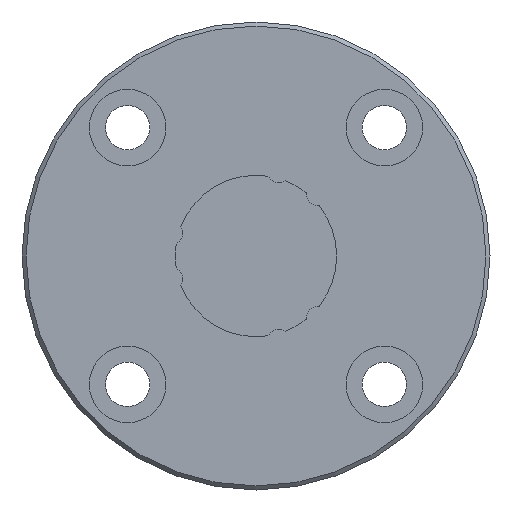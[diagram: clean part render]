
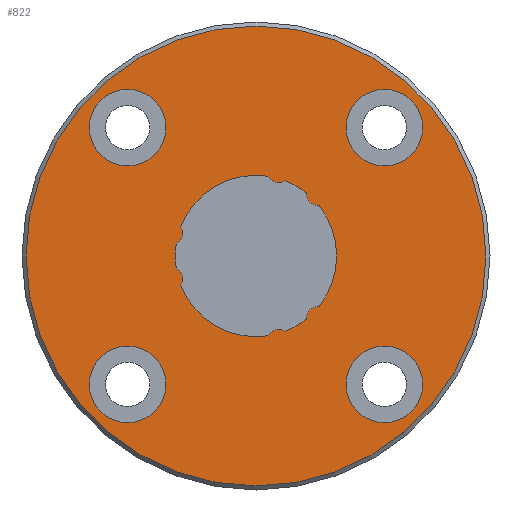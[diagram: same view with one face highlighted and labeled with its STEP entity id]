
A CAD part, left-side view. The second image highlights one B-rep face of the part: STEP entity #822.
In plain terms, the highlighted planar face has unit normal (-1, 0, 0).
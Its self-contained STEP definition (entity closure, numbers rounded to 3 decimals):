
#44=PLANE('',#927);
#175=ORIENTED_EDGE('',*,*,#351,.F.);
#176=ORIENTED_EDGE('',*,*,#352,.F.);
#177=ORIENTED_EDGE('',*,*,#353,.F.);
#178=ORIENTED_EDGE('',*,*,#354,.F.);
#179=ORIENTED_EDGE('',*,*,#355,.F.);
#180=ORIENTED_EDGE('',*,*,#356,.T.);
#181=ORIENTED_EDGE('',*,*,#357,.F.);
#182=ORIENTED_EDGE('',*,*,#358,.T.);
#183=ORIENTED_EDGE('',*,*,#359,.F.);
#184=ORIENTED_EDGE('',*,*,#360,.T.);
#185=ORIENTED_EDGE('',*,*,#361,.F.);
#186=ORIENTED_EDGE('',*,*,#362,.T.);
#187=ORIENTED_EDGE('',*,*,#363,.F.);
#188=ORIENTED_EDGE('',*,*,#364,.T.);
#189=ORIENTED_EDGE('',*,*,#365,.F.);
#190=ORIENTED_EDGE('',*,*,#366,.T.);
#191=ORIENTED_EDGE('',*,*,#367,.F.);
#351=EDGE_CURVE('',#445,#445,#523,.T.);
#352=EDGE_CURVE('',#446,#446,#524,.F.);
#353=EDGE_CURVE('',#447,#447,#525,.F.);
#354=EDGE_CURVE('',#448,#448,#526,.F.);
#355=EDGE_CURVE('',#449,#449,#527,.F.);
#356=EDGE_CURVE('',#450,#451,#528,.T.);
#357=EDGE_CURVE('',#452,#451,#529,.T.);
#358=EDGE_CURVE('',#452,#453,#530,.T.);
#359=EDGE_CURVE('',#454,#453,#531,.T.);
#360=EDGE_CURVE('',#454,#455,#532,.T.);
#361=EDGE_CURVE('',#456,#455,#533,.T.);
#362=EDGE_CURVE('',#456,#457,#534,.T.);
#363=EDGE_CURVE('',#458,#457,#535,.T.);
#364=EDGE_CURVE('',#458,#459,#536,.T.);
#365=EDGE_CURVE('',#460,#459,#537,.T.);
#366=EDGE_CURVE('',#460,#461,#538,.T.);
#367=EDGE_CURVE('',#450,#461,#539,.T.);
#445=VERTEX_POINT('',#1436);
#446=VERTEX_POINT('',#1438);
#447=VERTEX_POINT('',#1440);
#448=VERTEX_POINT('',#1442);
#449=VERTEX_POINT('',#1444);
#450=VERTEX_POINT('',#1446);
#451=VERTEX_POINT('',#1447);
#452=VERTEX_POINT('',#1449);
#453=VERTEX_POINT('',#1451);
#454=VERTEX_POINT('',#1453);
#455=VERTEX_POINT('',#1455);
#456=VERTEX_POINT('',#1457);
#457=VERTEX_POINT('',#1459);
#458=VERTEX_POINT('',#1461);
#459=VERTEX_POINT('',#1463);
#460=VERTEX_POINT('',#1465);
#461=VERTEX_POINT('',#1467);
#523=CIRCLE('',#928,28.5);
#524=CIRCLE('',#929,4.75);
#525=CIRCLE('',#930,4.75);
#526=CIRCLE('',#931,4.75);
#527=CIRCLE('',#932,4.75);
#528=CIRCLE('',#933,10.);
#529=CIRCLE('',#934,1.588);
#530=CIRCLE('',#935,10.);
#531=CIRCLE('',#936,1.588);
#532=CIRCLE('',#937,10.);
#533=CIRCLE('',#938,1.588);
#534=CIRCLE('',#939,10.);
#535=CIRCLE('',#940,1.588);
#536=CIRCLE('',#941,10.);
#537=CIRCLE('',#942,1.588);
#538=CIRCLE('',#943,10.);
#539=CIRCLE('',#944,1.588);
#593=EDGE_LOOP('',(#175));
#594=EDGE_LOOP('',(#176));
#595=EDGE_LOOP('',(#177));
#596=EDGE_LOOP('',(#178));
#597=EDGE_LOOP('',(#179));
#598=EDGE_LOOP('',(#180,#181,#182,#183,#184,#185,#186,#187,#188,#189,#190,
#191));
#689=FACE_BOUND('',#593,.T.);
#690=FACE_BOUND('',#594,.T.);
#691=FACE_BOUND('',#595,.T.);
#692=FACE_BOUND('',#596,.T.);
#693=FACE_BOUND('',#597,.T.);
#694=FACE_BOUND('',#598,.T.);
#822=ADVANCED_FACE('',(#689,#690,#691,#692,#693,#694),#44,.F.);
#927=AXIS2_PLACEMENT_3D('',#1434,#1114,#1115);
#928=AXIS2_PLACEMENT_3D('',#1435,#1116,#1117);
#929=AXIS2_PLACEMENT_3D('',#1437,#1118,#1119);
#930=AXIS2_PLACEMENT_3D('',#1439,#1120,#1121);
#931=AXIS2_PLACEMENT_3D('',#1441,#1122,#1123);
#932=AXIS2_PLACEMENT_3D('',#1443,#1124,#1125);
#933=AXIS2_PLACEMENT_3D('',#1445,#1126,#1127);
#934=AXIS2_PLACEMENT_3D('',#1448,#1128,#1129);
#935=AXIS2_PLACEMENT_3D('',#1450,#1130,#1131);
#936=AXIS2_PLACEMENT_3D('',#1452,#1132,#1133);
#937=AXIS2_PLACEMENT_3D('',#1454,#1134,#1135);
#938=AXIS2_PLACEMENT_3D('',#1456,#1136,#1137);
#939=AXIS2_PLACEMENT_3D('',#1458,#1138,#1139);
#940=AXIS2_PLACEMENT_3D('',#1460,#1140,#1141);
#941=AXIS2_PLACEMENT_3D('',#1462,#1142,#1143);
#942=AXIS2_PLACEMENT_3D('',#1464,#1144,#1145);
#943=AXIS2_PLACEMENT_3D('',#1466,#1146,#1147);
#944=AXIS2_PLACEMENT_3D('',#1468,#1148,#1149);
#1114=DIRECTION('',(1.,0.,0.));
#1115=DIRECTION('',(0.,0.,-1.));
#1116=DIRECTION('',(1.,0.,0.));
#1117=DIRECTION('',(0.,0.,-1.));
#1118=DIRECTION('',(1.,0.,0.));
#1119=DIRECTION('',(0.,0.,-1.));
#1120=DIRECTION('',(1.,0.,0.));
#1121=DIRECTION('',(0.,0.,-1.));
#1122=DIRECTION('',(1.,0.,0.));
#1123=DIRECTION('',(0.,0.,-1.));
#1124=DIRECTION('',(1.,0.,0.));
#1125=DIRECTION('',(0.,0.,-1.));
#1126=DIRECTION('',(1.,0.,0.));
#1127=DIRECTION('',(0.,0.,-1.));
#1128=DIRECTION('',(1.,0.,0.));
#1129=DIRECTION('',(0.,0.,-1.));
#1130=DIRECTION('',(1.,0.,0.));
#1131=DIRECTION('',(0.,0.,-1.));
#1132=DIRECTION('',(1.,0.,0.));
#1133=DIRECTION('',(0.,0.,-1.));
#1134=DIRECTION('',(1.,0.,0.));
#1135=DIRECTION('',(0.,0.,-1.));
#1136=DIRECTION('',(1.,0.,0.));
#1137=DIRECTION('',(0.,0.,-1.));
#1138=DIRECTION('',(1.,0.,0.));
#1139=DIRECTION('',(0.,0.,-1.));
#1140=DIRECTION('',(1.,0.,0.));
#1141=DIRECTION('',(0.,0.,-1.));
#1142=DIRECTION('',(1.,0.,0.));
#1143=DIRECTION('',(0.,0.,-1.));
#1144=DIRECTION('',(1.,0.,0.));
#1145=DIRECTION('',(0.,0.,-1.));
#1146=DIRECTION('',(1.,0.,0.));
#1147=DIRECTION('',(0.,0.,-1.));
#1148=DIRECTION('',(1.,0.,0.));
#1149=DIRECTION('',(0.,0.,-1.));
#1434=CARTESIAN_POINT('',(0.,0.,0.));
#1435=CARTESIAN_POINT('',(0.,0.,0.));
#1436=CARTESIAN_POINT('',(0.,0.,-28.5));
#1437=CARTESIAN_POINT('',(0.,-15.91,15.91));
#1438=CARTESIAN_POINT('',(0.,-15.91,11.16));
#1439=CARTESIAN_POINT('',(0.,-15.91,-15.91));
#1440=CARTESIAN_POINT('',(0.,-15.91,-20.66));
#1441=CARTESIAN_POINT('',(0.,15.91,-15.91));
#1442=CARTESIAN_POINT('',(0.,15.91,-20.66));
#1443=CARTESIAN_POINT('',(0.,15.91,15.91));
#1444=CARTESIAN_POINT('',(0.,15.91,11.16));
#1445=CARTESIAN_POINT('',(0.,0.,0.));
#1446=CARTESIAN_POINT('',(0.,9.89,-1.479));
#1447=CARTESIAN_POINT('',(0.,9.89,1.479));
#1448=CARTESIAN_POINT('',(0.,10.673,2.86));
#1449=CARTESIAN_POINT('',(0.,9.304,3.665));
#1450=CARTESIAN_POINT('',(0.,0.,0.));
#1451=CARTESIAN_POINT('',(0.,-1.479,9.89));
#1452=CARTESIAN_POINT('',(0.,-2.86,10.673));
#1453=CARTESIAN_POINT('',(0.,-3.665,9.304));
#1454=CARTESIAN_POINT('',(0.,0.,0.));
#1455=CARTESIAN_POINT('',(0.,-6.226,7.826));
#1456=CARTESIAN_POINT('',(0.,-7.814,7.814));
#1457=CARTESIAN_POINT('',(0.,-7.826,6.226));
#1458=CARTESIAN_POINT('',(0.,0.,0.));
#1459=CARTESIAN_POINT('',(0.,-7.826,-6.226));
#1460=CARTESIAN_POINT('',(0.,-7.814,-7.814));
#1461=CARTESIAN_POINT('',(0.,-6.226,-7.826));
#1462=CARTESIAN_POINT('',(0.,0.,0.));
#1463=CARTESIAN_POINT('',(0.,-3.665,-9.304));
#1464=CARTESIAN_POINT('',(0.,-2.86,-10.673));
#1465=CARTESIAN_POINT('',(0.,-1.479,-9.89));
#1466=CARTESIAN_POINT('',(0.,0.,0.));
#1467=CARTESIAN_POINT('',(0.,9.304,-3.665));
#1468=CARTESIAN_POINT('',(0.,10.673,-2.86));
